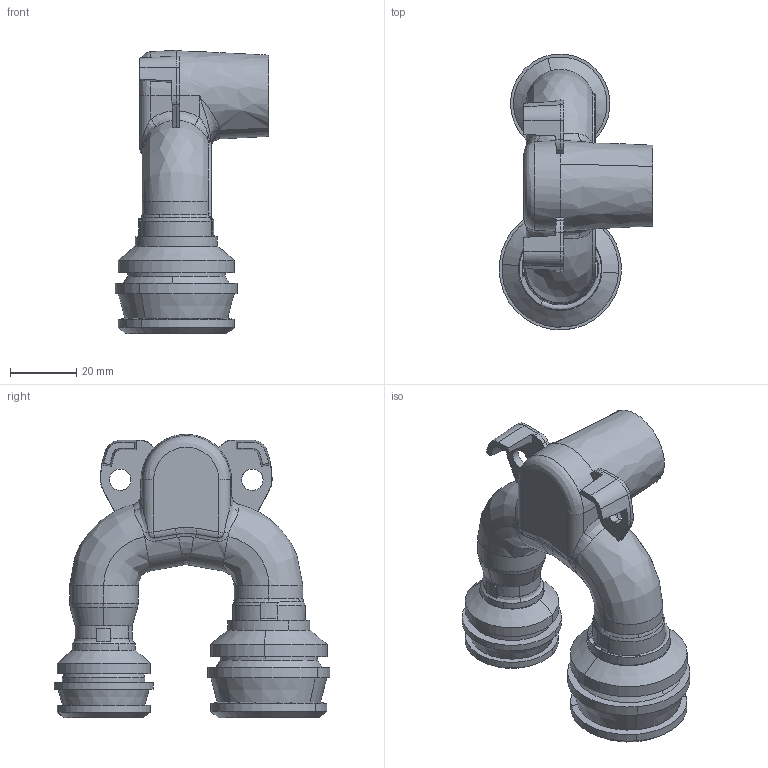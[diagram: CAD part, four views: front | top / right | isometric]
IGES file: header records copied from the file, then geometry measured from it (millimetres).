
Start section: 3D InterOp IGES (Version 25 0 1), Spatial Corp. Copyright (c) 1999-2007.
Global section: file name: pim0006862.igs; native system: Spatial Corp.; preprocessor: 3D InterOp ACIS/IGES; author: CAD-PIM; organization: TransMagic, Inc.; date: 20150618.114632; units: millimetre
Bounding box: 46.48 x 83.47 x 85.76 mm (x, y, z)
Volume: 74352.4 mm3; surface area: 25431.7 mm2
Topology: 1 solids, 1 shells, 274 faces, 761 edges, 499 vertices
Faces by surface type: bspline 133, plane 74, cylinder 51, cone 16
